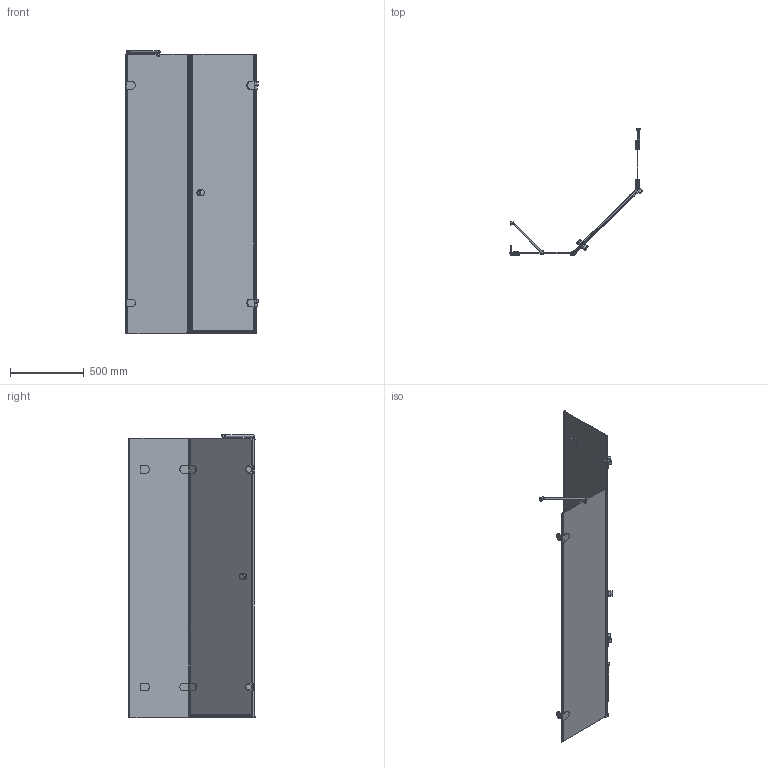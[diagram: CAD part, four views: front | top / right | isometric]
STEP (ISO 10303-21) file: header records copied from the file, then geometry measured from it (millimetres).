
FILE_DESCRIPTION(/* description */ (''),/* implementation_level */ '2;1');
FILE_NAME(/* name */ 'D:\4\777\LUX FESTT GK-001-2522Z\LUX FESTT GK-001-2522Z правая модель\LUX FESTT GK-001-2522Z ПРАВАЯ-3D.stp',/* time_stamp */ '2018-03-19T13:06:40+03:00',/* author */ ('ChechurovS'),/* organization */ (''),/* preprocessor_version */ 'ST-DEVELOPER v15.2',/* originating_system */ 'Autodesk Inventor 2014',/* authorisation */ '');
FILE_SCHEMA (('CONFIG_CONTROL_DESIGN'));
Length unit declared in the file: millimetre
Products named in the file (1): LUX FESTT GK-001-2522Z ПРАВАЯ-
3D
Bounding box: 898.92 x 857.08 x 1931.5 mm (x, y, z)
Volume: 17617231.3 mm3; surface area: 5991122.9 mm2
Topology: 4 solids, 4 shells, 682 faces, 1679 edges, 1039 vertices
Faces by surface type: plane 468, cylinder 173, torus 17, bspline 14, sphere 8, cone 2
Full cylindrical faces by diameter (mm): 12 x1, 15 x1, 20 x2, 26 x1, 30 x2, 35 x2, 38 x4, 40 x2
Entity records: 21382 total; most frequent: CARTESIAN_POINT 4644, DIRECTION 3290, ORIENTED_EDGE 3276, EDGE_CURVE 1636, LINE 1198, VECTOR 1198, AXIS2_PLACEMENT_3D 1046, VERTEX_POINT 1027
